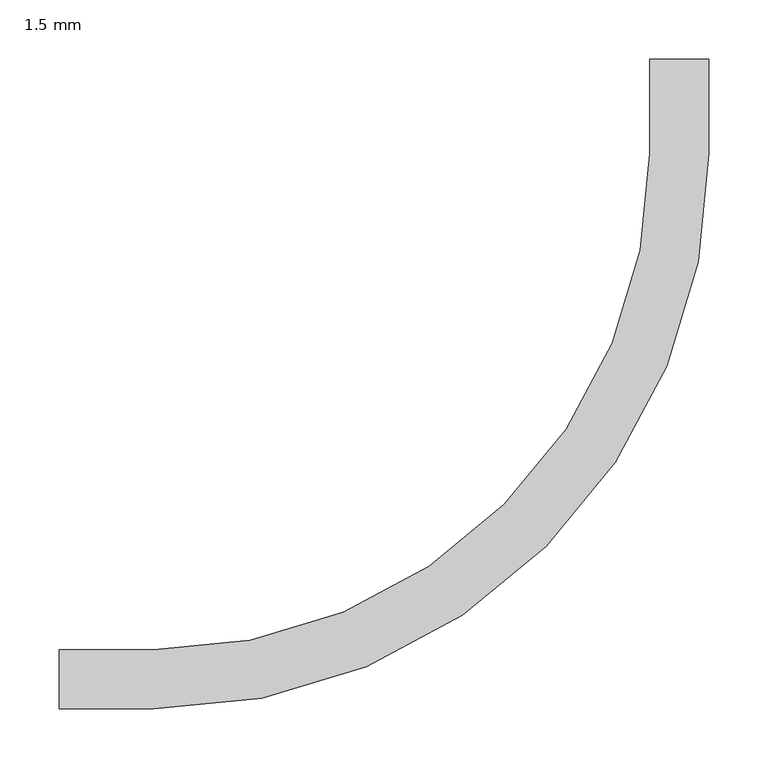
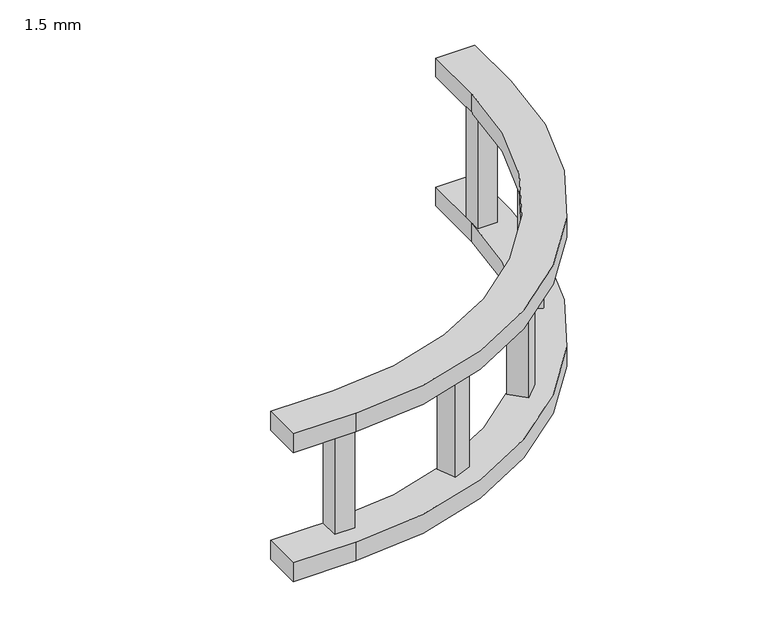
"""IFC4 building model written with IfcOpenShell, lengths in millimetres: cable carrier fitting geometry, BAKS_Łuk_pionowy_drabiny_zew : 1.5 mm."""

from ifc_helpers import new_model, si_unit, point, frame, frame_2d, origin, place, context, project, spatial, polyline, circle_curve, trimmed, segment, composite_curve, outline, extrude, source, transform, mapped, element, save


def cable_carrier_fitting_1_5_mm_861352f9(model_context):
    return source(origin(), model_context, "Body", "SweptSolid", [
        extrude(outline(polyline([(-52.1105168, 296.0062285), (-28.6439766, 286.2860693), (-38.3641358, 262.8195292), (-61.8306759, 272.5396883), (-52.1105168, 296.0062285)])), frame((0.0, 0.0, -74.6), z_axis=(0.0, 0.0, 1.0), x_axis=(1.0, 0.0, 0.0)), (0.0, 0.0, 1.0), 149.2),
        extrude(outline(polyline([(-272.5396883, 61.8306759), (-262.8195292, 38.3641358), (-286.2860693, 28.6439766), (-296.0062285, 52.1105168), (-272.5396883, 61.8306759)])), frame((0.0, 0.0, -74.6), z_axis=(0.0, 0.0, 1.0), x_axis=(1.0, 0.0, 0.0)), (0.0, 0.0, 1.0), 149.2),
        extrude(outline(polyline([(-25.0, 457.7), (0.4, 457.7), (0.4, 432.3), (-25.0, 432.3), (-25.0, 457.7)])), frame((0.0, 0.0, -74.6), z_axis=(0.0, 0.0, 1.0), x_axis=(1.0, 0.0, 0.0)), (0.0, 0.0, 1.0), 149.2),
        extrude(outline(polyline([(-139.0348958, 156.995408), (-121.0743835, 139.0348958), (-139.0348958, 121.0743835), (-156.995408, 139.0348958), (-139.0348958, 156.995408)])), frame((0.0, 0.0, -74.6), z_axis=(0.0, 0.0, 1.0), x_axis=(1.0, 0.0, 0.0)), (0.0, 0.0, 1.0), 149.2),
        extrude(outline(polyline([(-457.7, -0.4), (-457.7, 25.0), (-432.3, 25.0), (-432.3, -0.4), (-457.7, -0.4)])), frame((0.0, 0.0, -74.6), z_axis=(0.0, 0.0, 1.0), x_axis=(1.0, 0.0, 0.0)), (0.0, 0.0, 1.0), 149.2),
        extrude(outline(composite_curve([segment(polyline([(-525.0, -25.0), (-525.0, 25.0), (-445.0, 25.0)]), True, "CONTINUOUS"), segment(trimmed(circle_curve(frame_2d((-445.0, 445.0)), 420.0), [point((-445.0, 25.0))], [point((-25.0, 445.0))], True, "CARTESIAN"), True, "CONTINUOUS"), segment(polyline([(-25.0, 445.0), (-25.0, 525.0), (25.0, 525.0), (25.0, 445.0)]), True, "CONTINUOUS"), segment(trimmed(circle_curve(frame_2d((-445.0, 445.0)), 470.0), [point((25.0, 445.0))], [point((-445.0, -25.0))], False, "CARTESIAN"), True, "CONTINUOUS"), segment(polyline([(-445.0, -25.0), (-525.0, -25.0)]), True, "CONTINUOUS")], self_intersect=False)), frame((0.0, 0.0, 74.6), z_axis=(0.0, 0.0, 1.0), x_axis=(1.0, 0.0, 0.0)), (0.0, 0.0, 1.0), 25.4),
        extrude(outline(composite_curve([segment(polyline([(-525.0, -25.0), (-525.0, 25.0), (-445.0, 25.0)]), True, "CONTINUOUS"), segment(trimmed(circle_curve(frame_2d((-445.0, 445.0)), 420.0), [point((-445.0, 25.0))], [point((-25.0, 445.0))], True, "CARTESIAN"), True, "CONTINUOUS"), segment(polyline([(-25.0, 445.0), (-25.0, 525.0), (25.0, 525.0), (25.0, 445.0)]), True, "CONTINUOUS"), segment(trimmed(circle_curve(frame_2d((-445.0, 445.0)), 470.0), [point((25.0, 445.0))], [point((-445.0, -25.0))], False, "CARTESIAN"), True, "CONTINUOUS"), segment(polyline([(-445.0, -25.0), (-525.0, -25.0)]), True, "CONTINUOUS")], self_intersect=False)), frame((0.0, 0.0, -100.0), z_axis=(0.0, 0.0, 1.0), x_axis=(1.0, 0.0, 0.0)), (0.0, 0.0, 1.0), 25.4),
    ])


if __name__ == "__main__":
    model = new_model("IFC4")
    model_context = context("Model", 3, world=origin())
    ifc_project = project(units=[si_unit("LENGTHUNIT", "METRE", prefix="MILLI")], contexts=[model_context])
    site = spatial("IfcSite", under=ifc_project)
    building = spatial("IfcBuilding", under=site)
    placement = place(None, origin())
    cable_carrier_fitting_1_5_mm_shape = cable_carrier_fitting_1_5_mm_861352f9(model_context)
    element("IfcCableCarrierFitting", 1, ObjectType="BAKS_Łuk_pionowy_drabiny_zew : 1.5 mm", at=placement, inside=building, context=model_context, shape_type="MappedRepresentation", body=[
        mapped(cable_carrier_fitting_1_5_mm_shape, transform((0.0, 0.0, 0.0), x_axis=(1.0, 0.0, 0.0), y_axis=(0.0, 1.0, 0.0), z_axis=(0.0, 0.0, 1.0))),
    ])
    save(model, "model.ifc")
